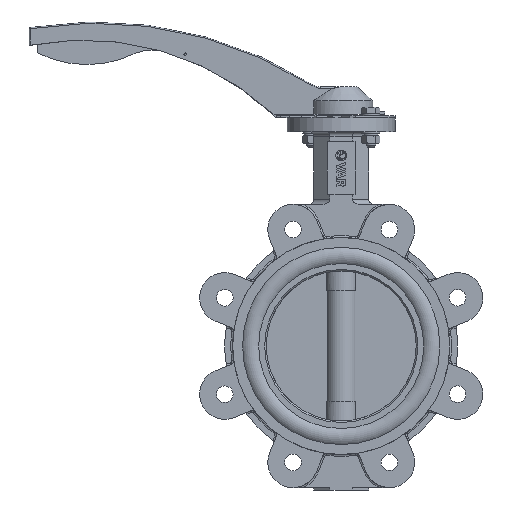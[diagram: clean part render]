
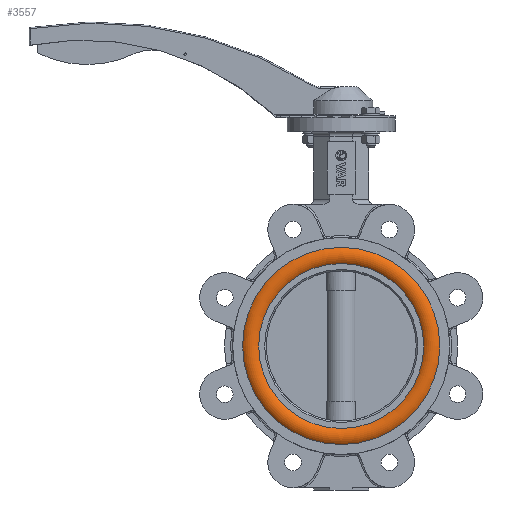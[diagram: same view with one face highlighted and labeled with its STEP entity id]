
A CAD part, left-side view. The second image highlights one B-rep face of the part: STEP entity #3557.
In plain terms, the highlighted toroidal (fillet/blend) face has major radius 75.458 mm and minor radius 9.543 mm.
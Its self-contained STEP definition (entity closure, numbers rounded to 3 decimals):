
#3557=ADVANCED_FACE('',(#7646,#7648),#7650,.T.);
#7646=FACE_OUTER_BOUND('',#7647,.T.);
#7647=EDGE_LOOP('',(#12206));
#7648=FACE_OUTER_BOUND('',#7649,.T.);
#7649=EDGE_LOOP('',(#12207));
#7650=TOROIDAL_SURFACE('',#7651,75.458,9.543);
#7651=AXIS2_PLACEMENT_3D('',#7652,#7653,#7654);
#7652=CARTESIAN_POINT('',(-21.012,0.,0.));
#7653=DIRECTION('',(-1.,0.,0.));
#7654=DIRECTION('',(0.,0.,1.));
#12206=ORIENTED_EDGE('',*,*,#14220,.T.);
#12207=ORIENTED_EDGE('',*,*,#14216,.F.);
#14216=EDGE_CURVE('',#16848,#16848,#16849,.T.);
#14220=EDGE_CURVE('',#16856,#16856,#16857,.T.);
#16848=VERTEX_POINT('',#25092);
#16849=CIRCLE('',#25093,68.75);
#16856=VERTEX_POINT('',#25112);
#16857=CIRCLE('',#25113,82.167);
#25092=CARTESIAN_POINT('',(-27.8,0.,68.75));
#25093=AXIS2_PLACEMENT_3D('',#25094,#25095,#25096);
#25094=CARTESIAN_POINT('',(-27.8,0.,0.));
#25095=DIRECTION('',(-1.,0.,0.));
#25096=DIRECTION('',(0.,0.,1.));
#25112=CARTESIAN_POINT('',(-27.8,0.,82.167));
#25113=AXIS2_PLACEMENT_3D('',#25114,#25115,#25116);
#25114=CARTESIAN_POINT('',(-27.8,0.,0.));
#25115=DIRECTION('',(-1.,0.,0.));
#25116=DIRECTION('',(0.,0.,1.));
